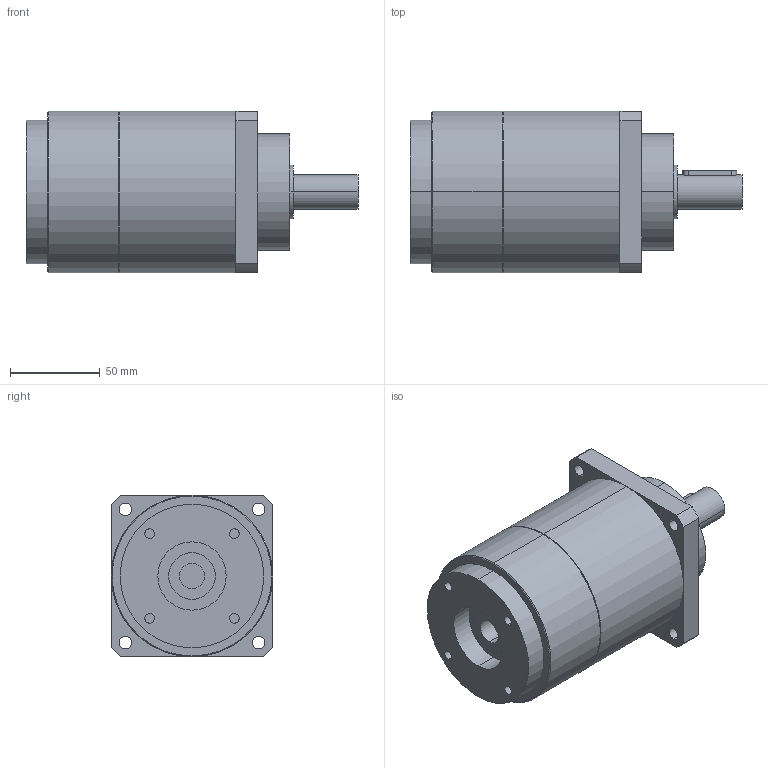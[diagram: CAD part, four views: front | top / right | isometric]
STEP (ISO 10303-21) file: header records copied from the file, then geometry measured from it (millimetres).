
FILE_DESCRIPTION(('CoCreate Modeling STEP Export'),'2;1');
FILE_NAME('GPT90_ig-9-12-16-20-25-28-35-40-50-70-100_19_B5T_14_P01.stp','2015-02-04T11:29:07',(''),(''),'CoCreate Modeling STEP processor for AP214 (Solid Model)','CoCreate Modeling 16.00C 25-Feb-2009 (C) Parametric Technology GmbH','');
FILE_SCHEMA(('AUTOMOTIVE_DESIGN { 1 0 10303 214 1 1 1 1 }'));
Length unit declared in the file: millimetre
Products named in the file (2): GPT90_ig-9-12-16-20-25-28-35-40-50-70-100_19_B5T_14_P01
Assembly tree (1 placements, depth 2):
  GPT90_ig-9-12-16-20-25-28-35-40-50-70-100_19_B5T_14_P01
    GPT90_ig-9-12-16-20-25-28-35-40-50-70-100_19_B5T_14_P01
Bounding box: 185 x 90 x 90 mm (x, y, z)
Volume: 875671.2 mm3; surface area: 64386 mm2
Topology: 1 solids, 1 shells, 72 faces, 182 edges, 125 vertices
Faces by surface type: cylinder 42, plane 26, cone 4
Entity records: 2313 total; most frequent: CARTESIAN_POINT 692, ORIENTED_EDGE 364, DIRECTION 272, EDGE_CURVE 182, VERTEX_POINT 125, AXIS2_PLACEMENT_3D 102, EDGE_LOOP 93, FACE_OUTER_BOUND 72
